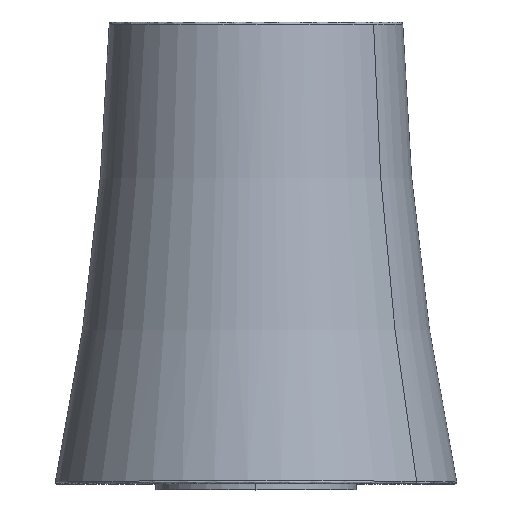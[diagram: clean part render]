
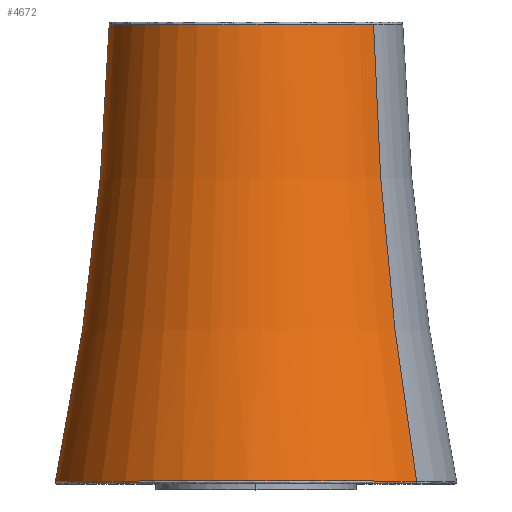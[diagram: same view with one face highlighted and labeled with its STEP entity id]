
A CAD part, top view. The second image highlights one B-rep face of the part: STEP entity #4672.
In plain terms, the highlighted toroidal (fillet/blend) face has major radius 1690.73 mm and minor radius 1600 mm.
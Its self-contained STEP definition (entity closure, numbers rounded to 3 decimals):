
#38 = CARTESIAN_POINT ( 'NONE',  ( -75.504, 289.348, 51.75 ) ) ;
#53 = CARTESIAN_POINT ( 'NONE',  ( 73.122, 289.348, 54.738 ) ) ;
#314 = CARTESIAN_POINT ( 'NONE',  ( 49.219, 5.312, 114.966 ) ) ;
#318 = CARTESIAN_POINT ( 'NONE',  ( -91.262, 289.348, 7.082 ) ) ;
#372 = CARTESIAN_POINT ( 'NONE',  ( 9.675, 5.312, 124.684 ) ) ;
#375 = CARTESIAN_POINT ( 'NONE',  ( -84.149, 289.348, 36.026 ) ) ;
#401 = CARTESIAN_POINT ( 'NONE',  ( 1.081, 289.348, 91.53 ) ) ;
#430 = CARTESIAN_POINT ( 'NONE',  ( -49.953, 289.348, 76.705 ) ) ;
#529 = VERTEX_POINT ( 'NONE', #3353 ) ;
#557 = EDGE_CURVE ( 'NONE', #4886, #1556, #2450, .T. ) ;
#600 = ORIENTED_EDGE ( 'NONE', *, *, #557, .F. ) ;
#620 = DIRECTION ( 'NONE',  ( 0.801, 0., 0.599 ) ) ;
#744 = CARTESIAN_POINT ( 'NONE',  ( 73.122, 289.348, 54.738 ) ) ;
#775 = CARTESIAN_POINT ( 'NONE',  ( -120.401, 5.312, 33.814 ) ) ;
#800 = CARTESIAN_POINT ( 'NONE',  ( -46.49, 5.312, 116.096 ) ) ;
#827 = CARTESIAN_POINT ( 'NONE',  ( 51.75, 289.348, 75.504 ) ) ;
#931 = DIRECTION ( 'NONE',  ( -0.599, 0., 0.801 ) ) ;
#955 = EDGE_CURVE ( 'NONE', #4886, #3372, #2297, .T. ) ;
#975 = CARTESIAN_POINT ( 'NONE',  ( -99.901, 5.312, -74.785 ) ) ;
#1089 = CARTESIAN_POINT ( 'NONE',  ( 99.901, 5.312, 74.785 ) ) ;
#1115 = CARTESIAN_POINT ( 'NONE',  ( 1.477, 5.312, 125.05 ) ) ;
#1140 = CARTESIAN_POINT ( 'NONE',  ( 70.702, 5.312, 103.155 ) ) ;
#1165 = CARTESIAN_POINT ( 'NONE',  ( 99.901, 5.312, 74.785 ) ) ;
#1172 = CARTESIAN_POINT ( 'NONE',  ( -76.705, 289.348, -49.953 ) ) ;
#1203 = CARTESIAN_POINT ( 'NONE',  ( -73.122, 289.348, -54.738 ) ) ;
#1226 = CARTESIAN_POINT ( 'NONE',  ( 7.082, 289.348, 91.262 ) ) ;
#1248 = CARTESIAN_POINT ( 'NONE',  ( 36.026, 289.348, 84.149 ) ) ;
#1512 = CARTESIAN_POINT ( 'NONE',  ( -14.835, 5.312, 124.176 ) ) ;
#1534 = TOROIDAL_SURFACE ( 'NONE', #3491, 1690.725, 1600. ) ;
#1556 = VERTEX_POINT ( 'NONE', #1165 ) ;
#1685 = DIRECTION ( 'NONE',  ( 0.599, 0., -0.801 ) ) ;
#1800 = CIRCLE ( 'NONE', #3899, 1600. ) ;
#1890 = CARTESIAN_POINT ( 'NONE',  ( -109.046, 5.312, -61.226 ) ) ;
#1941 = CARTESIAN_POINT ( 'NONE',  ( 56.653, 5.312, 111.49 ) ) ;
#1946 = CARTESIAN_POINT ( 'NONE',  ( -87.025, 289.348, -28.382 ) ) ;
#1976 = CARTESIAN_POINT ( 'NONE',  ( 24.75, 289.348, 88.127 ) ) ;
#2029 = CARTESIAN_POINT ( 'NONE',  ( -89.56, 289.348, 18.917 ) ) ;
#2055 = CARTESIAN_POINT ( 'NONE',  ( -59.524, 289.348, 69.54 ) ) ;
#2086 = CARTESIAN_POINT ( 'NONE',  ( -1353.497, 333.72, -1013.212 ) ) ;
#2254 = CARTESIAN_POINT ( 'NONE',  ( -122.359, 5.312, 25.844 ) ) ;
#2271 = EDGE_CURVE ( 'NONE', #529, #1556, #2674, .T. ) ;
#2297 = B_SPLINE_CURVE_WITH_KNOTS ( 'NONE', 3,
 ( #744, #3257, #4056, #3981, #827, #4448, #1248, #1976, #4009, #1226, #401, #4475, #4822, #2441, #3595, #2855, #430, #2055, #2831, #3673, #38, #4424, #375, #2335, #2029, #318, #5214, #3198, #2416, #1946, #4792, #4034, #1172, #1203 ),
 .UNSPECIFIED., .F., .F.,
 ( 4, 2, 2, 2, 2, 2, 2, 2, 2, 2, 2, 2, 2, 2, 2, 2, 4 ),
 ( 0.5, 0.531, 0.563, 0.594, 0.625, 0.656, 0.688, 0.719, 0.75, 0.781, 0.813, 0.844, 0.875, 0.906, 0.938, 0.969, 1. ),
 .UNSPECIFIED. ) ;
#2335 = CARTESIAN_POINT ( 'NONE',  ( -88.127, 289.348, 24.75 ) ) ;
#2416 = CARTESIAN_POINT ( 'NONE',  ( -89.982, 289.348, -16.796 ) ) ;
#2441 = CARTESIAN_POINT ( 'NONE',  ( -28.382, 289.348, 87.025 ) ) ;
#2450 = CIRCLE ( 'NONE', #2705, 1600. ) ;
#2476 = DIRECTION ( 'NONE',  ( -0.801, 0., -0.599 ) ) ;
#2573 = DIRECTION ( 'NONE',  ( 0., 1., 0. ) ) ;
#2644 = CARTESIAN_POINT ( 'NONE',  ( 1353.497, 333.72, 1013.212 ) ) ;
#2657 = CARTESIAN_POINT ( 'NONE',  ( -116.096, 5.312, -46.49 ) ) ;
#2674 = B_SPLINE_CURVE_WITH_KNOTS ( 'NONE', 3,
 ( #975, #3898, #1890, #2657, #4936, #2947, #4912, #4537, #4263, #2254, #775, #3977, #5157, #3513, #3194, #4031, #4704, #3109, #4421, #800, #2710, #2738, #1512, #1115, #372, #3166, #5182, #314, #1941, #1140, #5211, #2766, #3135, #1089 ),
 .UNSPECIFIED., .F., .F.,
 ( 4, 2, 2, 2, 2, 2, 2, 2, 2, 2, 2, 2, 2, 2, 2, 2, 4 ),
 ( 0., 0.031, 0.063, 0.094, 0.125, 0.156, 0.188, 0.219, 0.25, 0.281, 0.313, 0.344, 0.375, 0.406, 0.438, 0.469, 0.5 ),
 .UNSPECIFIED. ) ;
#2705 = AXIS2_PLACEMENT_3D ( 'NONE', #2644, #931, #620 ) ;
#2710 = CARTESIAN_POINT ( 'NONE',  ( -38.775, 5.312, 118.896 ) ) ;
#2738 = CARTESIAN_POINT ( 'NONE',  ( -22.948, 5.312, 122.935 ) ) ;
#2766 = CARTESIAN_POINT ( 'NONE',  ( 89.468, 5.312, 87.38 ) ) ;
#2831 = CARTESIAN_POINT ( 'NONE',  ( -63.957, 289.348, 65.486 ) ) ;
#2855 = CARTESIAN_POINT ( 'NONE',  ( -44.814, 289.348, 79.816 ) ) ;
#2947 = CARTESIAN_POINT ( 'NONE',  ( -122.935, 5.312, -22.948 ) ) ;
#3109 = CARTESIAN_POINT ( 'NONE',  ( -68.246, 5.312, 104.796 ) ) ;
#3111 = CARTESIAN_POINT ( 'NONE',  ( -73.122, 289.348, -54.738 ) ) ;
#3135 = CARTESIAN_POINT ( 'NONE',  ( 95.006, 5.312, 81.323 ) ) ;
#3166 = CARTESIAN_POINT ( 'NONE',  ( 25.844, 5.312, 122.359 ) ) ;
#3194 = CARTESIAN_POINT ( 'NONE',  ( -98.295, 5.312, 77.316 ) ) ;
#3198 = CARTESIAN_POINT ( 'NONE',  ( -90.89, 289.348, -10.858 ) ) ;
#3257 = CARTESIAN_POINT ( 'NONE',  ( 69.54, 289.348, 59.524 ) ) ;
#3288 = ORIENTED_EDGE ( 'NONE', *, *, #4703, .T. ) ;
#3353 = CARTESIAN_POINT ( 'NONE',  ( -99.901, 5.312, -74.785 ) ) ;
#3372 = VERTEX_POINT ( 'NONE', #3111 ) ;
#3405 = DIRECTION ( 'NONE',  ( 0.801, 0., 0.599 ) ) ;
#3491 = AXIS2_PLACEMENT_3D ( 'NONE', #4949, #2573, #3405 ) ;
#3513 = CARTESIAN_POINT ( 'NONE',  ( -103.155, 5.312, 70.702 ) ) ;
#3595 = CARTESIAN_POINT ( 'NONE',  ( -34.028, 289.348, 84.976 ) ) ;
#3673 = CARTESIAN_POINT ( 'NONE',  ( -71.947, 289.348, 56.591 ) ) ;
#3898 = CARTESIAN_POINT ( 'NONE',  ( -104.796, 5.312, -68.246 ) ) ;
#3899 = AXIS2_PLACEMENT_3D ( 'NONE', #2086, #1685, #2476 ) ;
#3977 = CARTESIAN_POINT ( 'NONE',  ( -114.966, 5.312, 49.219 ) ) ;
#3981 = CARTESIAN_POINT ( 'NONE',  ( 56.591, 289.348, 71.947 ) ) ;
#4009 = CARTESIAN_POINT ( 'NONE',  ( 18.917, 289.348, 89.56 ) ) ;
#4031 = CARTESIAN_POINT ( 'NONE',  ( -87.38, 5.312, 89.468 ) ) ;
#4034 = CARTESIAN_POINT ( 'NONE',  ( -79.816, 289.348, -44.814 ) ) ;
#4056 = CARTESIAN_POINT ( 'NONE',  ( 65.486, 289.348, 63.957 ) ) ;
#4107 = ORIENTED_EDGE ( 'NONE', *, *, #2271, .T. ) ;
#4263 = CARTESIAN_POINT ( 'NONE',  ( -124.684, 5.312, 9.675 ) ) ;
#4414 = EDGE_LOOP ( 'NONE', ( #4684, #3288, #4107, #600 ) ) ;
#4421 = CARTESIAN_POINT ( 'NONE',  ( -61.226, 5.312, 109.046 ) ) ;
#4424 = CARTESIAN_POINT ( 'NONE',  ( -81.605, 289.348, 41.467 ) ) ;
#4448 = CARTESIAN_POINT ( 'NONE',  ( 41.467, 289.348, 81.605 ) ) ;
#4475 = CARTESIAN_POINT ( 'NONE',  ( -10.858, 289.348, 90.89 ) ) ;
#4523 = FACE_OUTER_BOUND ( 'NONE', #4414, .T. ) ;
#4537 = CARTESIAN_POINT ( 'NONE',  ( -125.05, 5.312, 1.477 ) ) ;
#4672 = ADVANCED_FACE ( 'NONE', ( #4523 ), #1534, .F. ) ;
#4684 = ORIENTED_EDGE ( 'NONE', *, *, #955, .T. ) ;
#4703 = EDGE_CURVE ( 'NONE', #3372, #529, #1800, .T. ) ;
#4704 = CARTESIAN_POINT ( 'NONE',  ( -81.323, 5.312, 95.006 ) ) ;
#4792 = CARTESIAN_POINT ( 'NONE',  ( -84.976, 289.348, -34.028 ) ) ;
#4822 = CARTESIAN_POINT ( 'NONE',  ( -16.796, 289.348, 89.982 ) ) ;
#4886 = VERTEX_POINT ( 'NONE', #53 ) ;
#4912 = CARTESIAN_POINT ( 'NONE',  ( -124.176, 5.312, -14.835 ) ) ;
#4936 = CARTESIAN_POINT ( 'NONE',  ( -118.896, 5.312, -38.775 ) ) ;
#4949 = CARTESIAN_POINT ( 'NONE',  ( 0., 333.72, 0. ) ) ;
#5157 = CARTESIAN_POINT ( 'NONE',  ( -111.49, 5.312, 56.653 ) ) ;
#5182 = CARTESIAN_POINT ( 'NONE',  ( 33.814, 5.312, 120.401 ) ) ;
#5211 = CARTESIAN_POINT ( 'NONE',  ( 77.316, 5.312, 98.295 ) ) ;
#5214 = CARTESIAN_POINT ( 'NONE',  ( -91.53, 289.348, 1.081 ) ) ;
